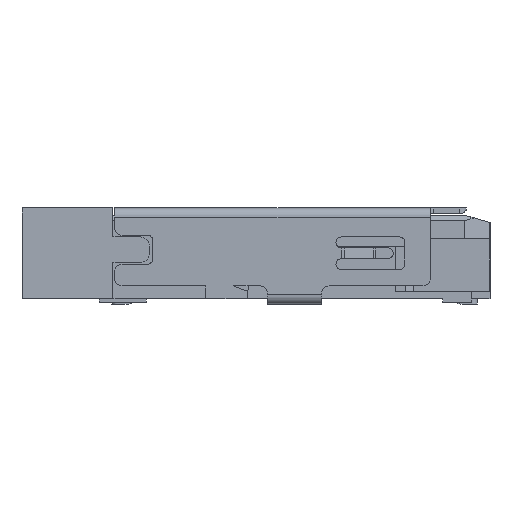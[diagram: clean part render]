
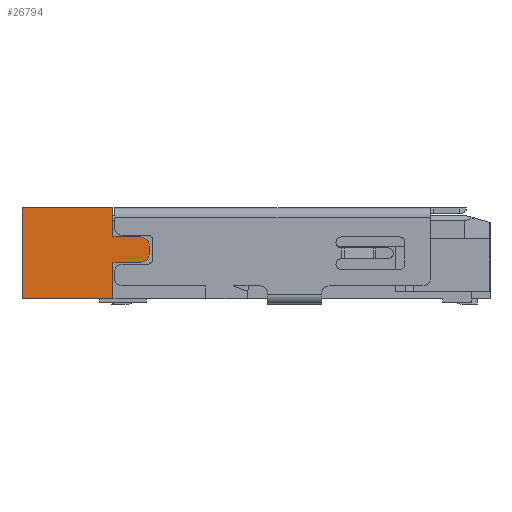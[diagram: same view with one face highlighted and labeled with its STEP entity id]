
A CAD part, left-side view. The second image highlights one B-rep face of the part: STEP entity #26794.
In plain terms, the highlighted planar face has unit normal (-1, 0, 0).
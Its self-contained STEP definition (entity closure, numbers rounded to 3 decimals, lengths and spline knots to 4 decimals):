
#1=DIRECTION('',(0.,0.,1.));
#2=VECTOR('',#1,0.2);
#3=CARTESIAN_POINT('',(-5.58,12.645,0.8));
#4=LINE('',#3,#2);
#5=CARTESIAN_POINT('',(-5.58,12.895,0.8));
#6=DIRECTION('',(-1.,0.,0.));
#7=DIRECTION('',(0.,0.,-1.));
#8=AXIS2_PLACEMENT_3D('',#5,#6,#7);
#10=DIRECTION('',(0.,0.,1.));
#11=VECTOR('',#10,1.);
#12=CARTESIAN_POINT('',(-5.58,13.645,-0.45));
#13=LINE('',#12,#11);
#14=DIRECTION('',(0.,-1.,0.));
#15=VECTOR('',#14,2.51);
#16=CARTESIAN_POINT('',(-5.58,16.155,-0.45));
#17=LINE('',#16,#15);
#18=CARTESIAN_POINT('',(-5.58,12.895,1.));
#19=DIRECTION('',(-1.,0.,0.));
#20=DIRECTION('',(0.,-1.,0.));
#21=AXIS2_PLACEMENT_3D('',#18,#19,#20);
#31=DIRECTION('',(0.,-1.,0.));
#32=VECTOR('',#31,0.75);
#33=CARTESIAN_POINT('',(-5.58,13.645,1.25));
#34=LINE('',#33,#32);
#43=DIRECTION('',(0.,0.,-1.));
#44=VECTOR('',#43,0.8);
#45=CARTESIAN_POINT('',(-5.58,13.645,2.05));
#46=LINE('',#45,#44);
#219=DIRECTION('',(0.,-1.,0.));
#220=VECTOR('',#219,2.51);
#221=CARTESIAN_POINT('',(-5.58,16.155,2.05));
#222=LINE('',#221,#220);
#247=DIRECTION('',(0.,0.,1.));
#248=VECTOR('',#247,2.5);
#249=CARTESIAN_POINT('',(-5.58,16.155,-0.45));
#250=LINE('',#249,#248);
#12507=DIRECTION('',(0.,1.,0.));
#12508=VECTOR('',#12507,0.75);
#12509=CARTESIAN_POINT('',(-5.58,12.895,0.55));
#12510=LINE('',#12509,#12508);
#21068=CARTESIAN_POINT('',(-5.58,12.895,0.55));
#21069=CARTESIAN_POINT('',(-5.58,12.645,0.8));
#21070=VERTEX_POINT('',#21068);
#21071=VERTEX_POINT('',#21069);
#21072=CARTESIAN_POINT('',(-5.58,13.645,0.55));
#21073=VERTEX_POINT('',#21072);
#21074=CARTESIAN_POINT('',(-5.58,13.645,-0.45));
#21075=VERTEX_POINT('',#21074);
#21076=CARTESIAN_POINT('',(-5.58,16.155,-0.45));
#21077=VERTEX_POINT('',#21076);
#21078=CARTESIAN_POINT('',(-5.58,16.155,2.05));
#21079=VERTEX_POINT('',#21078);
#21080=CARTESIAN_POINT('',(-5.58,13.645,2.05));
#21081=VERTEX_POINT('',#21080);
#21082=CARTESIAN_POINT('',(-5.58,13.645,1.25));
#21083=VERTEX_POINT('',#21082);
#21084=CARTESIAN_POINT('',(-5.58,12.895,1.25));
#21085=VERTEX_POINT('',#21084);
#21086=CARTESIAN_POINT('',(-5.58,12.645,1.));
#21087=VERTEX_POINT('',#21086);
#26767=CARTESIAN_POINT('',(-5.58,12.645,1.2));
#26768=DIRECTION('',(-1.,0.,0.));
#26769=DIRECTION('',(0.,1.,0.));
#26770=AXIS2_PLACEMENT_3D('',#26767,#26768,#26769);
#26771=PLANE('',#26770);
#26773=ORIENTED_EDGE('',*,*,#26772,.F.);
#26775=ORIENTED_EDGE('',*,*,#26774,.F.);
#26777=ORIENTED_EDGE('',*,*,#26776,.T.);
#26779=ORIENTED_EDGE('',*,*,#26778,.F.);
#26781=ORIENTED_EDGE('',*,*,#26780,.F.);
#26783=ORIENTED_EDGE('',*,*,#26782,.T.);
#26785=ORIENTED_EDGE('',*,*,#26784,.T.);
#26787=ORIENTED_EDGE('',*,*,#26786,.T.);
#26789=ORIENTED_EDGE('',*,*,#26788,.T.);
#26791=ORIENTED_EDGE('',*,*,#26790,.F.);
#26792=EDGE_LOOP('',(#26773,#26775,#26777,#26779,#26781,#26783,#26785,#26787,
#26789,#26791));
#26793=FACE_OUTER_BOUND('',#26792,.F.);
#9=CIRCLE('',#8,0.25);
#22=CIRCLE('',#21,0.25);
#26772=EDGE_CURVE('',#21071,#21087,#4,.T.);
#26774=EDGE_CURVE('',#21070,#21071,#9,.T.);
#26776=EDGE_CURVE('',#21070,#21073,#12510,.T.);
#26778=EDGE_CURVE('',#21075,#21073,#13,.T.);
#26780=EDGE_CURVE('',#21077,#21075,#17,.T.);
#26782=EDGE_CURVE('',#21077,#21079,#250,.T.);
#26784=EDGE_CURVE('',#21079,#21081,#222,.T.);
#26786=EDGE_CURVE('',#21081,#21083,#46,.T.);
#26788=EDGE_CURVE('',#21083,#21085,#34,.T.);
#26790=EDGE_CURVE('',#21087,#21085,#22,.T.);
#26794=ADVANCED_FACE('',(#26793),#26771,.T.);
